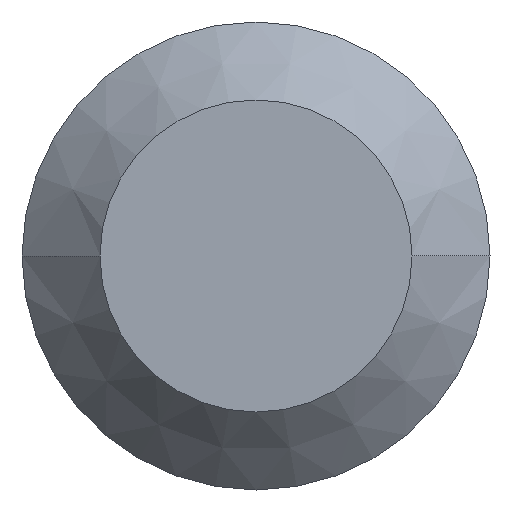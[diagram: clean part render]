
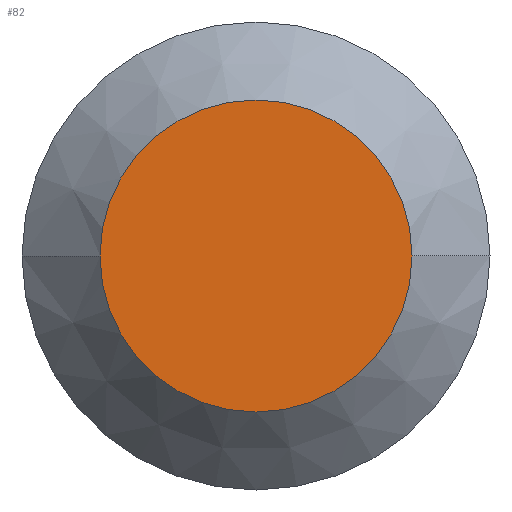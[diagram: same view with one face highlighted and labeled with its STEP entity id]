
A CAD part, front view. The second image highlights one B-rep face of the part: STEP entity #82.
In plain terms, the highlighted planar face has unit normal (0, -1, 0).
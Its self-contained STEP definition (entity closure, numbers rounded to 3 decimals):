
#82 = ADVANCED_FACE( '', ( #98 ), #99, .T. );
#98 = FACE_OUTER_BOUND( '', #114, .T. );
#99 = PLANE( '', #115 );
#114 = EDGE_LOOP( '', ( #163, #164 ) );
#115 = AXIS2_PLACEMENT_3D( '', #165, #166, #167 );
#163 = ORIENTED_EDGE( '', *, *, #171, .T. );
#164 = ORIENTED_EDGE( '', *, *, #181, .T. );
#165 = CARTESIAN_POINT( '', ( -1., -18.2, 0. ) );
#166 = DIRECTION( '', ( 0., -1., 0. ) );
#167 = DIRECTION( '', ( -1., 0., 0. ) );
#171 = EDGE_CURVE( '', #183, #187, #189, .T. );
#181 = EDGE_CURVE( '', #187, #183, #203, .T. );
#183 = VERTEX_POINT( '', #205 );
#187 = VERTEX_POINT( '', #210 );
#189 = CIRCLE( '', #213, 2. );
#203 = CIRCLE( '', #231, 2. );
#205 = CARTESIAN_POINT( '', ( -2., -18.2, 0. ) );
#210 = CARTESIAN_POINT( '', ( 2., -18.2, 0. ) );
#213 = AXIS2_PLACEMENT_3D( '', #237, #238, #239 );
#231 = AXIS2_PLACEMENT_3D( '', #259, #260, #261 );
#237 = CARTESIAN_POINT( '', ( 0., -18.2, 0. ) );
#238 = DIRECTION( '', ( 0., -1., 0. ) );
#239 = DIRECTION( '', ( -1., 0., 0. ) );
#259 = CARTESIAN_POINT( '', ( 0., -18.2, 0. ) );
#260 = DIRECTION( '', ( 0., -1., 0. ) );
#261 = DIRECTION( '', ( -1., 0., 0. ) );
